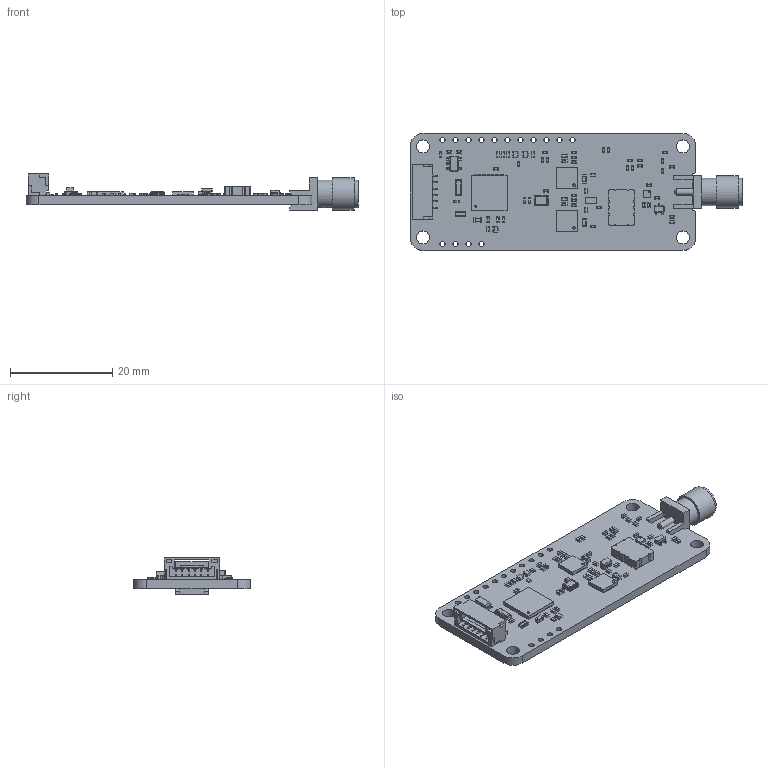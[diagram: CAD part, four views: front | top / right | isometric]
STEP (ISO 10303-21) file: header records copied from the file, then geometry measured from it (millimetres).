
FILE_DESCRIPTION(('KiCad electronic assembly'),'2;1');
FILE_NAME('dAISy Mini2.step','2023-04-07T15:13:48',('Pcbnew'),('Kicad'), 'Open CASCADE STEP processor 7.6','KiCad to STEP converter','Unknown' );
FILE_SCHEMA(('AUTOMOTIVE_DESIGN { 1 0 10303 214 1 1 1 1 }'));
Length unit declared in the file: millimetre
Products named in the file (38): dAISy Mini2 1; JST_GH_SM06B-GHS-TB_1x06-1MP_P1.25mm_Horizontal; SOLID; C_0402_1005Metric; SAW-BodyPocket; ROHM_SOT-723; COMPOUND; SMA-J-P-H-ST-EM1; R_0402_1005Metric; R_Array_Concave_4x0402; SOT-23-5; SOT-323_SC-70; Texas_S-PVQFN-N48_EP5.15x5.15mm; Murata_Ceralock_3.2x1.3; ATB2012-50011-T000--3DModel-STEP-269445; LQW15AN_W05; LQW18AN; DFN-6-1EP_1.2x1.2mm_P0.4mm_EP0.3x0.94mm; QFN-20-1EP_4x4mm_P0.5mm_EP2.5x2.5mm; C_0603_1608Metric; TG2520SMN; dAISy Mini2 PCB
Assembly tree (90 placements, depth 3):
  dAISy Mini2 1
    JST_GH_SM06B-GHS-TB_1x06-1MP_P1.25mm_Horizontal
      SOLID
    C_0402_1005Metric  x40
      SOLID
    SAW-BodyPocket
      SOLID
    ROHM_SOT-723  x3
      COMPOUND
    SMA-J-P-H-ST-EM1
      SOLID
    R_0402_1005Metric  x10
      SOLID
    R_Array_Concave_4x0402
      SOLID
    SOT-23-5
      SOLID
    SOT-323_SC-70
      SOLID
    Texas_S-PVQFN-N48_EP5.15x5.15mm
      SOLID
    Murata_Ceralock_3.2x1.3
      COMPOUND
    ATB2012-50011-T000--3DModel-STEP-269445
      COMPOUND
    LQW15AN_W05  x2
      COMPOUND
    LQW18AN  x2
      COMPOUND
    DFN-6-1EP_1.2x1.2mm_P0.4mm_EP0.3x0.94mm
      SOLID
    QFN-20-1EP_4x4mm_P0.5mm_EP2.5x2.5mm  x2
      SOLID
    C_0603_1608Metric
      SOLID
    TG2520SMN
      COMPOUND
    dAISy Mini2 PCB
Bounding box: 64.88 x 22.86 x 7.07 mm (x, y, z)
Volume: 2708.6 mm3; surface area: 4321.8 mm2
Topology: 133 solids, 133 shells, 3464 faces, 9045 edges, 5926 vertices
Faces by surface type: plane 2333, cylinder 956, bspline 106, torus 56, sphere 12, cone 1
Full cylindrical faces by diameter (mm): 0.08 x50, 0.4 x1, 0.5 x2, 1 x15, 1.27 x2, 2.54 x4, 4.1 x1, 4.25 x1, 4.63 x1, 5.35 x2, 6.33 x1
Entity records: 131306 total; most frequent: CARTESIAN_POINT 25477, DIRECTION 17685, LINE 12291, VECTOR 12291, ORIENTED_EDGE 9604, PCURVE 9604, DEFINITIONAL_REPRESENTATION 9604, EDGE_CURVE 4802
